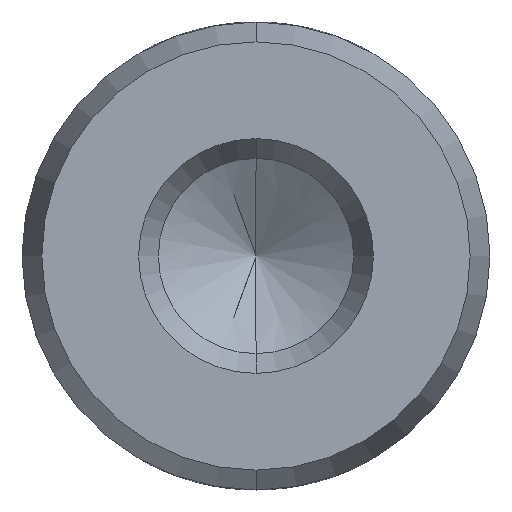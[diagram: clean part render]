
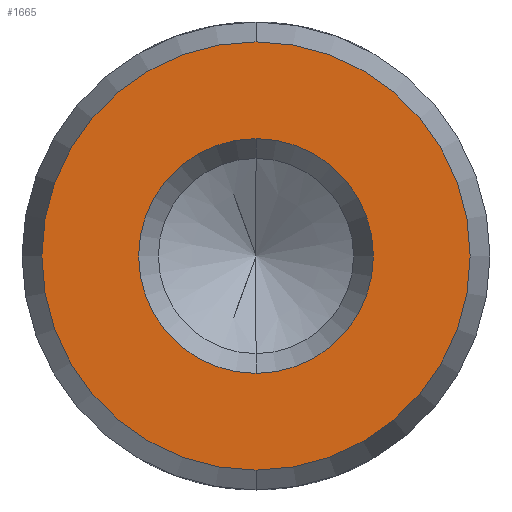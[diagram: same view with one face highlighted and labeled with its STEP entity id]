
A CAD part, front view. The second image highlights one B-rep face of the part: STEP entity #1665.
In plain terms, the highlighted planar face has unit normal (0, -1, 0).
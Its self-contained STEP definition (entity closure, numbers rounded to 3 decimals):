
#68 = DIRECTION ( 'NONE',  ( 0., 1., 0. ) ) ;
#86 = AXIS2_PLACEMENT_3D ( 'NONE', #1352, #3809, #1705 ) ;
#389 = ORIENTED_EDGE ( 'NONE', *, *, #811, .F. ) ;
#441 = CARTESIAN_POINT ( 'NONE',  ( -2.44, -10.791, 0.129 ) ) ;
#475 = CARTESIAN_POINT ( 'NONE',  ( -2.44, -10.791, 0.129 ) ) ;
#654 = EDGE_CURVE ( 'NONE', #4173, #3927, #3825, .T. ) ;
#676 = EDGE_CURVE ( 'NONE', #3927, #4173, #2349, .T. ) ;
#811 = EDGE_CURVE ( 'NONE', #2520, #2743, #3718, .T. ) ;
#840 = FACE_OUTER_BOUND ( 'NONE', #1590, .T. ) ;
#939 = CIRCLE ( 'NONE', #1349, 2.743 ) ;
#970 = ORIENTED_EDGE ( 'NONE', *, *, #676, .T. ) ;
#1043 = CARTESIAN_POINT ( 'NONE',  ( -2.44, -10.791, 0.129 ) ) ;
#1113 = CARTESIAN_POINT ( 'NONE',  ( -2.44, -10.791, 1.633 ) ) ;
#1349 = AXIS2_PLACEMENT_3D ( 'NONE', #2195, #68, #2544 ) ;
#1352 = CARTESIAN_POINT ( 'NONE',  ( 0.303, -10.791, 0.129 ) ) ;
#1397 = DIRECTION ( 'NONE',  ( 0., 0., 1. ) ) ;
#1590 = EDGE_LOOP ( 'NONE', ( #2279, #389 ) ) ;
#1602 = EDGE_CURVE ( 'NONE', #2743, #2520, #939, .T. ) ;
#1665 = ADVANCED_FACE ( 'NONE', ( #1784, #840 ), #2061, .F. ) ;
#1705 = DIRECTION ( 'NONE',  ( 0., 0., 1. ) ) ;
#1784 = FACE_BOUND ( 'NONE', #1864, .T. ) ;
#1864 = EDGE_LOOP ( 'NONE', ( #970, #3946 ) ) ;
#2061 = PLANE ( 'NONE',  #86 ) ;
#2195 = CARTESIAN_POINT ( 'NONE',  ( -2.44, -10.791, 0.129 ) ) ;
#2279 = ORIENTED_EDGE ( 'NONE', *, *, #1602, .F. ) ;
#2349 = CIRCLE ( 'NONE', #4102, 1.504 ) ;
#2520 = VERTEX_POINT ( 'NONE', #2690 ) ;
#2544 = DIRECTION ( 'NONE',  ( 0., 0., 1. ) ) ;
#2690 = CARTESIAN_POINT ( 'NONE',  ( -2.44, -10.791, -2.614 ) ) ;
#2722 = CARTESIAN_POINT ( 'NONE',  ( -2.44, -10.791, 2.872 ) ) ;
#2743 = VERTEX_POINT ( 'NONE', #2722 ) ;
#3098 = CARTESIAN_POINT ( 'NONE',  ( -2.44, -10.791, -1.375 ) ) ;
#3503 = DIRECTION ( 'NONE',  ( 0., 1., 0. ) ) ;
#3671 = DIRECTION ( 'NONE',  ( 0., 1., 0. ) ) ;
#3718 = CIRCLE ( 'NONE', #4055, 2.743 ) ;
#3809 = DIRECTION ( 'NONE',  ( 0., 1., 0. ) ) ;
#3825 = CIRCLE ( 'NONE', #3955, 1.504 ) ;
#3835 = DIRECTION ( 'NONE',  ( 0., 1., 0. ) ) ;
#3927 = VERTEX_POINT ( 'NONE', #3098 ) ;
#3946 = ORIENTED_EDGE ( 'NONE', *, *, #654, .T. ) ;
#3955 = AXIS2_PLACEMENT_3D ( 'NONE', #441, #3835, #4321 ) ;
#4055 = AXIS2_PLACEMENT_3D ( 'NONE', #1043, #3503, #1397 ) ;
#4102 = AXIS2_PLACEMENT_3D ( 'NONE', #475, #3671, #4203 ) ;
#4173 = VERTEX_POINT ( 'NONE', #1113 ) ;
#4203 = DIRECTION ( 'NONE',  ( 0., 0., 1. ) ) ;
#4321 = DIRECTION ( 'NONE',  ( 0., 0., 1. ) ) ;
